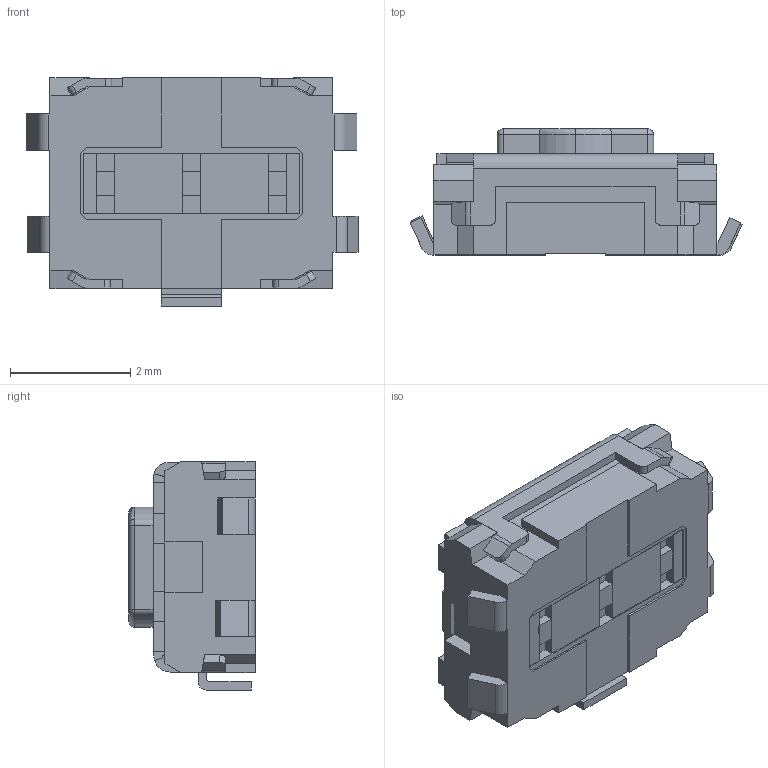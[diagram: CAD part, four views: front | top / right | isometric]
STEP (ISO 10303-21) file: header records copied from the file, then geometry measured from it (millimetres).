
FILE_DESCRIPTION(('STEP AP242'),'1');
FILE_NAME('evqp2p02m.stp','2022-04-05T10:28:46',('TraceParts'),('TraceParts S.A.'),'Spatial InterOp 3D',' ',' ');
FILE_SCHEMA(('AP242_MANAGED_MODEL_BASED_3D_ENGINEERING_MIM_LF {1 0 10303 442 1 1 4}'));
Length unit declared in the file: millimetre
Products named in the file (1): evqp2p02m
Bounding box: 5.52 x 2.1 x 3.79 mm (x, y, z)
Volume: 27.8 mm3; surface area: 76.4 mm2
Topology: 1 solids, 1 shells, 271 faces, 771 edges, 502 vertices
Faces by surface type: plane 214, cylinder 50, bspline 7
Entity records: 8788 total; most frequent: CARTESIAN_POINT 1715, ORIENTED_EDGE 1534, DIRECTION 1383, EDGE_CURVE 767, LINE 659, VECTOR 659, VERTEX_POINT 502, AXIS2_PLACEMENT_3D 362
